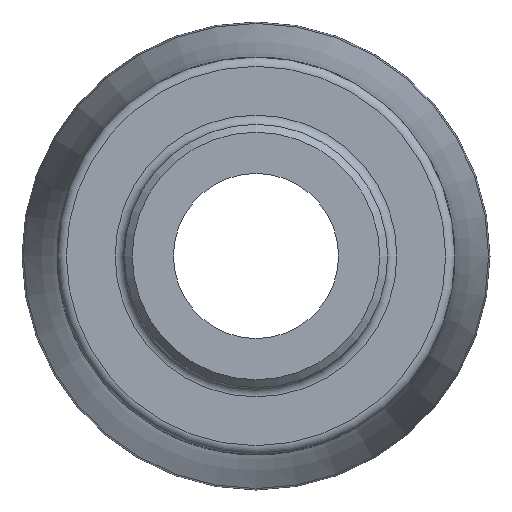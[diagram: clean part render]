
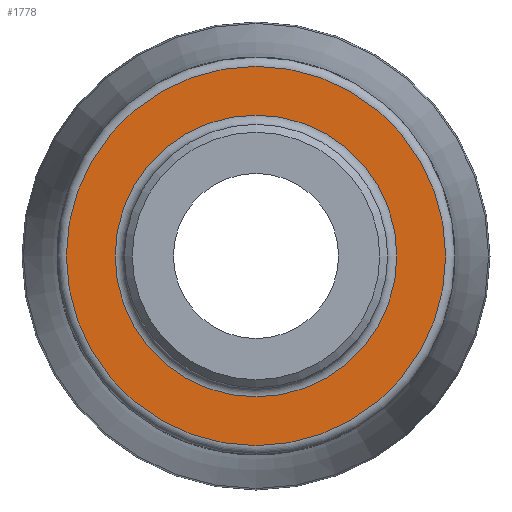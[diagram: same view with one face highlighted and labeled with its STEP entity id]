
A CAD part, left-side view. The second image highlights one B-rep face of the part: STEP entity #1778.
In plain terms, the highlighted planar face has unit normal (-1, 0, 0).
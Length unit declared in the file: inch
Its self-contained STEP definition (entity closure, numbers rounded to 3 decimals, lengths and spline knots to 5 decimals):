
#93=FACE_BOUND('',#322,.T.);
#105=PLANE('',#1973);
#219=FACE_OUTER_BOUND('',#321,.T.);
#321=EDGE_LOOP('',(#1336,#1337));
#322=EDGE_LOOP('',(#1338,#1339));
#639=CIRCLE('',#1971,0.55691);
#640=CIRCLE('',#1972,0.55691);
#641=CIRCLE('',#1974,0.74983);
#642=CIRCLE('',#1975,0.74983);
#770=VERTEX_POINT('',#3190);
#771=VERTEX_POINT('',#3192);
#772=VERTEX_POINT('',#3196);
#773=VERTEX_POINT('',#3197);
#976=EDGE_CURVE('',#770,#771,#639,.T.);
#977=EDGE_CURVE('',#771,#770,#640,.T.);
#978=EDGE_CURVE('',#772,#773,#641,.T.);
#979=EDGE_CURVE('',#773,#772,#642,.T.);
#1336=ORIENTED_EDGE('',*,*,#978,.F.);
#1337=ORIENTED_EDGE('',*,*,#979,.F.);
#1338=ORIENTED_EDGE('',*,*,#977,.F.);
#1339=ORIENTED_EDGE('',*,*,#976,.F.);
#1778=ADVANCED_FACE('',(#219,#93),#105,.T.);
#1971=AXIS2_PLACEMENT_3D('',#3193,#2313,#2314);
#1972=AXIS2_PLACEMENT_3D('',#3194,#2315,#2316);
#1973=AXIS2_PLACEMENT_3D('',#3195,#2317,#2318);
#1974=AXIS2_PLACEMENT_3D('',#3198,#2319,#2320);
#1975=AXIS2_PLACEMENT_3D('',#3199,#2321,#2322);
#2313=DIRECTION('center_axis',(-1.,0.,0.));
#2314=DIRECTION('ref_axis',(0.,-1.,0.));
#2315=DIRECTION('center_axis',(-1.,0.,0.));
#2316=DIRECTION('ref_axis',(0.,-1.,0.));
#2317=DIRECTION('center_axis',(-1.,0.,0.));
#2318=DIRECTION('ref_axis',(0.,0.,1.));
#2319=DIRECTION('center_axis',(1.,0.,0.));
#2320=DIRECTION('ref_axis',(0.,-1.,0.));
#2321=DIRECTION('center_axis',(1.,0.,0.));
#2322=DIRECTION('ref_axis',(0.,-1.,0.));
#3190=CARTESIAN_POINT('',(0.67,0.,0.55691));
#3192=CARTESIAN_POINT('',(0.67,0.55691,0.));
#3193=CARTESIAN_POINT('Origin',(0.67,0.,0.));
#3194=CARTESIAN_POINT('Origin',(0.67,0.,0.));
#3195=CARTESIAN_POINT('Origin',(0.67,0.78625,0.));
#3196=CARTESIAN_POINT('',(0.67,0.74983,0.));
#3197=CARTESIAN_POINT('',(0.67,0.,0.74983));
#3198=CARTESIAN_POINT('Origin',(0.67,0.,0.));
#3199=CARTESIAN_POINT('Origin',(0.67,0.,0.));
